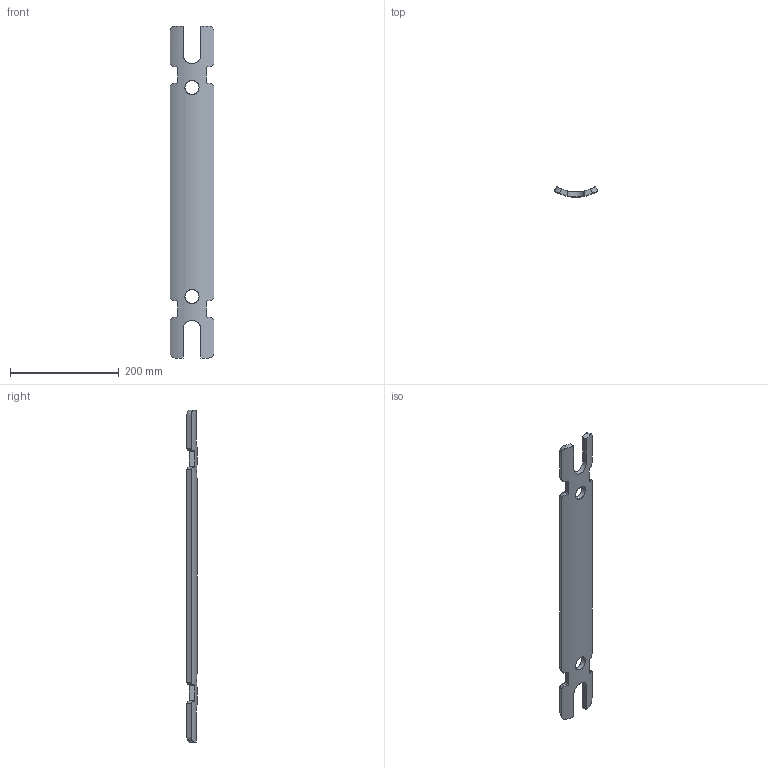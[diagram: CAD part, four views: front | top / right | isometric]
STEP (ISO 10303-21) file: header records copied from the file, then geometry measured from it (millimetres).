
FILE_DESCRIPTION(/* description */ ('Верхний валик. Труба 159'),/* implementation_level */ '2;1');
FILE_NAME(/* name */ 'D:\Work\ОП ДЕЛО\Деложим 250 изм 7\Верхний валик. Труба 159 3D Model.stp',/* time_stamp */ '2025-03-31T13:09:21+04:00',/* author */ ('Администратор'),/* organization */ (''),/* preprocessor_version */ 'ST-DEVELOPER v17.2',/* originating_system */ 'Autodesk Inventor 2019',/* authorisation */ '');
FILE_SCHEMA (('CONFIG_CONTROL_DESIGN'));
Length unit declared in the file: millimetre
Products named in the file (1): ПД-225.02.00.003
Bounding box: 80 x 18.57 x 610 mm (x, y, z)
Volume: 371474.2 mm3; surface area: 99258 mm2
Topology: 1 solids, 1 shells, 60 faces, 182 edges, 124 vertices
Faces by surface type: plane 34, cylinder 26
Full cylindrical faces by diameter (mm): 26 x2
Entity records: 2557 total; most frequent: CARTESIAN_POINT 937, ORIENTED_EDGE 364, DIRECTION 288, EDGE_CURVE 182, VERTEX_POINT 124, AXIS2_PLACEMENT_3D 101, LINE 86, VECTOR 86
